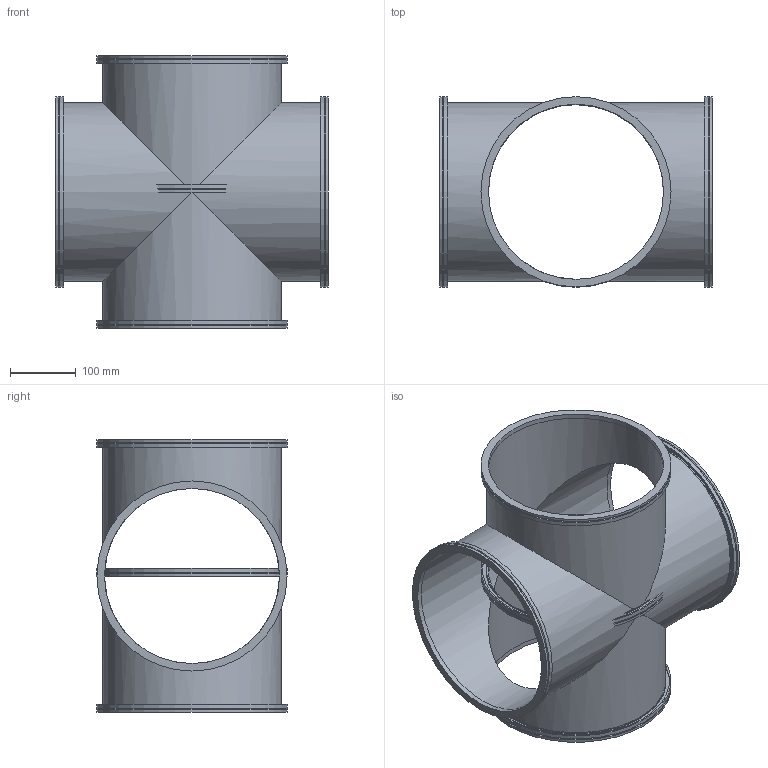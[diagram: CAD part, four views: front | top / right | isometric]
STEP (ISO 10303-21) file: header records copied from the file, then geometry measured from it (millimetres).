
FILE_DESCRIPTION( ( 'Unknown' ), '1' );
FILE_NAME( 'X:/Daten ( aktueller Bestand )/Projekte und Zeichnungen/Solid Edge/9 ISO-K Verzweigungen/ISO-K-Kreuzstücke/6115.stp', 'Unknown', ( 'Unknown' ), ( 'Unknown' ), 'XStep 1.0', 'Unknown', ' ' );
FILE_SCHEMA( ( 'automotive_design' ) );
Length unit declared in the file: millimetre
Products named in the file (3): Assem1; 6115-1; 6515-1
Bounding box: 416 x 290 x 416 mm (x, y, z)
Volume: 2822858.5 mm3; surface area: 1803405.7 mm2
Topology: 7 solids, 7 shells, 84 faces, 151 edges, 92 vertices
Faces by surface type: cylinder 46, plane 33, torus 5
Full cylindrical faces by diameter (mm): 267 x13, 273 x8, 273.5 x5, 275 x5, 285 x5, 290 x10
Entity records: 690 total; most frequent: DIRECTION 116, CARTESIAN_POINT 82, AXIS2_PLACEMENT_3D 58, ORIENTED_EDGE 56, EDGE_LOOP 48, FACE_OUTER_BOUND 39, EDGE_CURVE 28, ADVANCED_FACE 24
